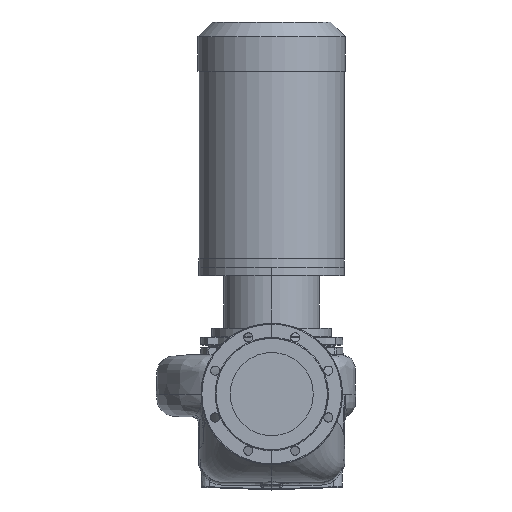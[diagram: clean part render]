
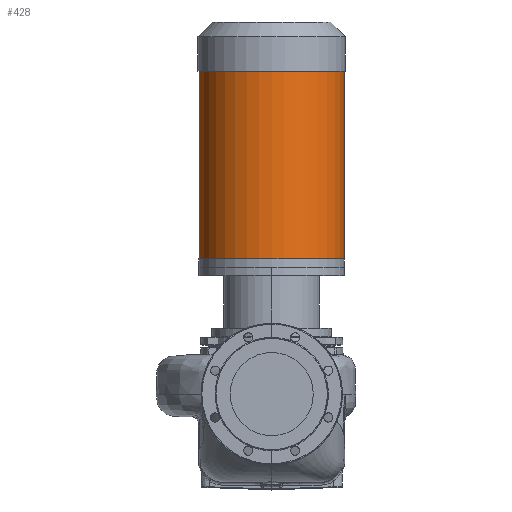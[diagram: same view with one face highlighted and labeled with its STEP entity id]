
A CAD part, top view. The second image highlights one B-rep face of the part: STEP entity #428.
In plain terms, the highlighted cylindrical face has radius 174.5 mm (diameter 349 mm), a partial arc.
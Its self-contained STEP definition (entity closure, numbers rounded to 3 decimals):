
#428 = ADVANCED_FACE ( 'NONE', ( #15295 ), #45325, .T. ) ;
#783 = AXIS2_PLACEMENT_3D ( 'NONE', #16680, #48945, #44030 ) ;
#5904 = DIRECTION ( 'NONE',  ( -1., 0., 0. ) ) ;
#6241 = DIRECTION ( 'NONE',  ( 0., -1., 0. ) ) ;
#11912 = CARTESIAN_POINT ( 'NONE',  ( 174.5, 305.8, 0. ) ) ;
#11916 = LINE ( 'NONE', #23737, #22791 ) ;
#12373 = ORIENTED_EDGE ( 'NONE', *, *, #29377, .F. ) ;
#15295 = FACE_OUTER_BOUND ( 'NONE', #39394, .T. ) ;
#16062 = CIRCLE ( 'NONE', #783, 174.5 ) ;
#16680 = CARTESIAN_POINT ( 'NONE',  ( 0., 777.8, 0. ) ) ;
#19291 = VERTEX_POINT ( 'NONE', #64369 ) ;
#19306 = VERTEX_POINT ( 'NONE', #37752 ) ;
#19832 = CARTESIAN_POINT ( 'NONE',  ( 174.5, 777.8, 0. ) ) ;
#22791 = VECTOR ( 'NONE', #61127, 1000. ) ;
#23737 = CARTESIAN_POINT ( 'NONE',  ( -174.5, 305.8, 0. ) ) ;
#25555 = CIRCLE ( 'NONE', #36700, 174.5 ) ;
#27232 = EDGE_CURVE ( 'NONE', #32042, #19291, #16062, .T. ) ;
#27953 = DIRECTION ( 'NONE',  ( -1., 0., 0. ) ) ;
#29377 = EDGE_CURVE ( 'NONE', #32042, #32359, #63024, .T. ) ;
#31766 = CARTESIAN_POINT ( 'NONE',  ( 174.5, 325.8, 0. ) ) ;
#32042 = VERTEX_POINT ( 'NONE', #19832 ) ;
#32359 = VERTEX_POINT ( 'NONE', #31766 ) ;
#35468 = AXIS2_PLACEMENT_3D ( 'NONE', #52399, #47253, #5904 ) ;
#36700 = AXIS2_PLACEMENT_3D ( 'NONE', #54373, #6241, #27953 ) ;
#37752 = CARTESIAN_POINT ( 'NONE',  ( -174.5, 325.8, 0. ) ) ;
#39394 = EDGE_LOOP ( 'NONE', ( #12373, #52661, #60062, #63579 ) ) ;
#44030 = DIRECTION ( 'NONE',  ( -1., 0., 0. ) ) ;
#45325 = CYLINDRICAL_SURFACE ( 'NONE', #35468, 174.5 ) ;
#45468 = VECTOR ( 'NONE', #54946, 1000. ) ;
#47253 = DIRECTION ( 'NONE',  ( 0., -1., 0. ) ) ;
#48945 = DIRECTION ( 'NONE',  ( 0., -1., 0. ) ) ;
#51594 = EDGE_CURVE ( 'NONE', #32359, #19306, #25555, .T. ) ;
#52399 = CARTESIAN_POINT ( 'NONE',  ( 0., 305.8, 0. ) ) ;
#52661 = ORIENTED_EDGE ( 'NONE', *, *, #27232, .T. ) ;
#54373 = CARTESIAN_POINT ( 'NONE',  ( 0., 325.8, 0. ) ) ;
#54946 = DIRECTION ( 'NONE',  ( 0., -1., 0. ) ) ;
#55124 = EDGE_CURVE ( 'NONE', #19291, #19306, #11916, .T. ) ;
#60062 = ORIENTED_EDGE ( 'NONE', *, *, #55124, .T. ) ;
#61127 = DIRECTION ( 'NONE',  ( 0., -1., 0. ) ) ;
#63024 = LINE ( 'NONE', #11912, #45468 ) ;
#63579 = ORIENTED_EDGE ( 'NONE', *, *, #51594, .F. ) ;
#64369 = CARTESIAN_POINT ( 'NONE',  ( -174.5, 777.8, 0. ) ) ;
